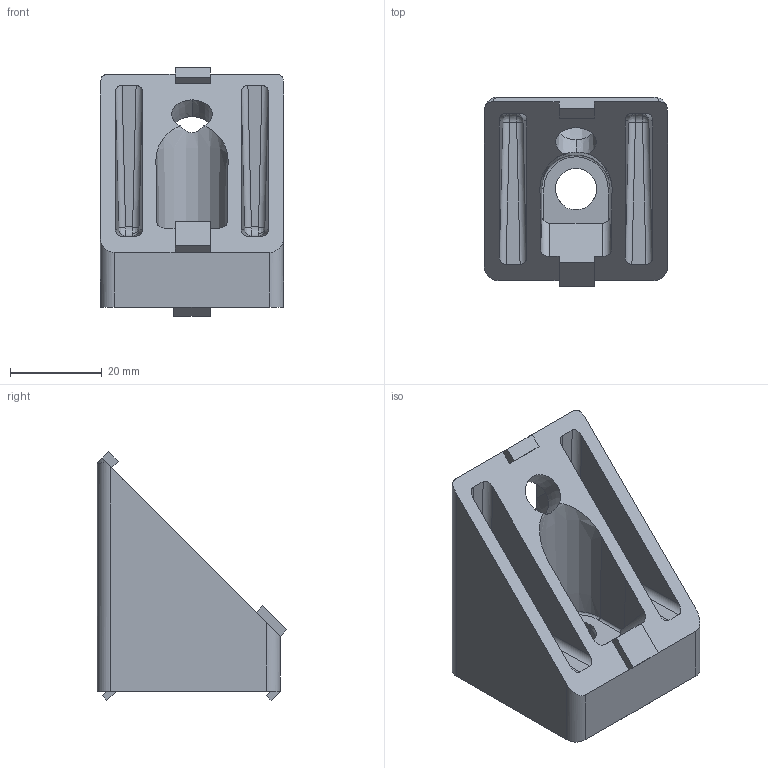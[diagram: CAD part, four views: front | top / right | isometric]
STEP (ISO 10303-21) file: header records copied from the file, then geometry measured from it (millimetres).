
FILE_DESCRIPTION (( 'STEP AP214' ), '1' );
FILE_NAME ('28408_WINVER4045.STEP', '2016-11-28T10:59:59', ( '' ), ( '' ), 'SwSTEP 2.0', 'SolidWorks 2016', '' );
FILE_SCHEMA (( 'AUTOMOTIVE_DESIGN' ));
Length unit declared in the file: millimetre
Products named in the file (1): 28408_WINVER4045
Bounding box: 40 x 41.41 x 54.35 mm (x, y, z)
Volume: 33195.2 mm3; surface area: 13617.8 mm2
Topology: 1 solids, 1 shells, 120 faces, 297 edges, 182 vertices
Faces by surface type: plane 55, cylinder 41, bspline 19, cone 5
Entity records: 5447 total; most frequent: CARTESIAN_POINT 1462, ORIENTED_EDGE 590, DIRECTION 491, EDGE_CURVE 295, VERTEX_POINT 182, VECTOR 173, LINE 173, AXIS2_PLACEMENT_3D 159
